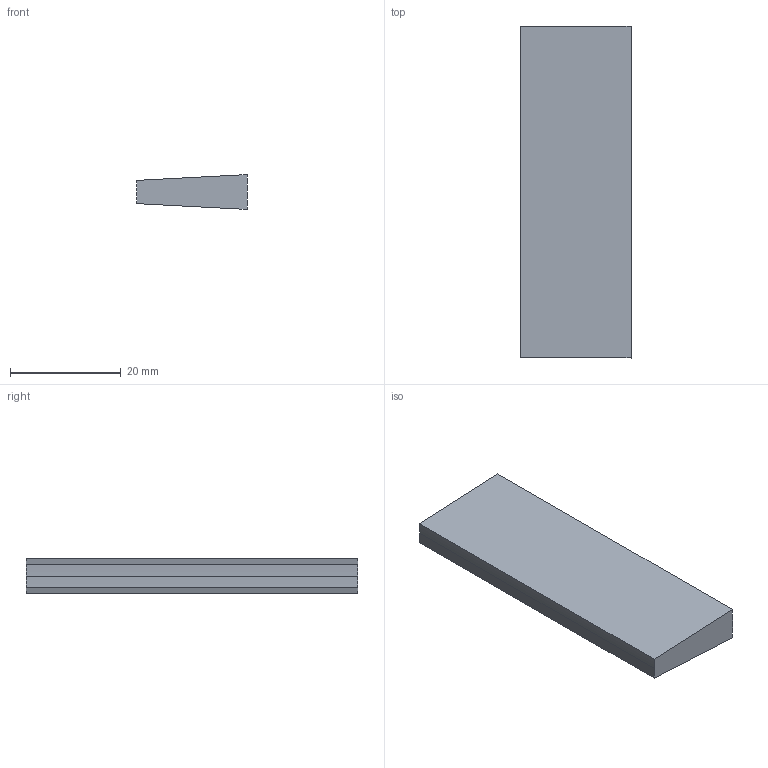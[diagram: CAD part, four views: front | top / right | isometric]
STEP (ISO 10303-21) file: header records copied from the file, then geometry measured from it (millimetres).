
FILE_DESCRIPTION(('STEP AP214'),'1');
FILE_NAME('Ring_3deg_Slice.stp','2020-05-27T17:30:48',(' '),(' '),'Spatial InterOp 3D',' ',' ');
FILE_SCHEMA(('AUTOMOTIVE_DESIGN { 1 0 10303 214 1 1 1 1 }'));
Length unit declared in the file: metre
Products named in the file (1): Solid
Bounding box: 20.05 x 60 x 6.28 mm (x, y, z)
Volume: 6283.2 mm3; surface area: 3237.8 mm2
Topology: 1 solids, 1 shells, 8 faces, 18 edges, 12 vertices
Faces by surface type: cylinder 4, plane 4
Entity records: 255 total; most frequent: DIRECTION 44, CARTESIAN_POINT 39, ORIENTED_EDGE 36, EDGE_CURVE 18, AXIS2_PLACEMENT_3D 17, VERTEX_POINT 12, LINE 10, VECTOR 10
